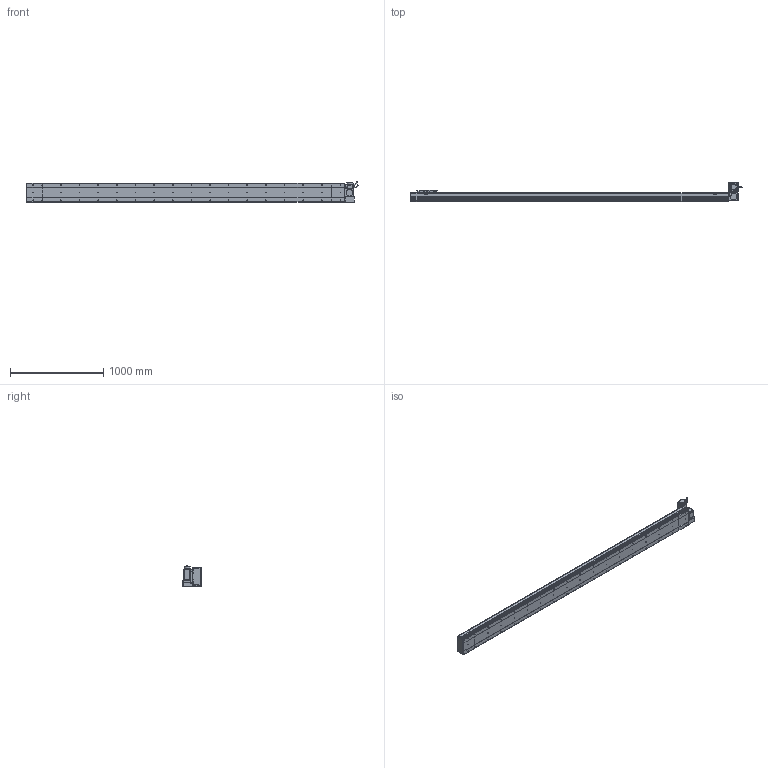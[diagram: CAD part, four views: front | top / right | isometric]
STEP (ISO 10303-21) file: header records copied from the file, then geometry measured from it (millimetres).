
FILE_DESCRIPTION (( 'STEP AP214' ), '1' );
FILE_NAME ('D20 CBH RT S3100.STEP', '2010-06-30T10:41:22', ( 'Conseil Régional Haute-Normandie' ), ( 'Conseil Régional Haute-Normandie' ), 'SwSTEP 2.0', 'SolidWorks 2010', '' );
FILE_SCHEMA (( 'AUTOMOTIVE_DESIGN' ));
Length unit declared in the file: millimetre
Products named in the file (31): vis M5 L47_Default; vis M5 L30_Default; Support moteur RT_Default; Moteur motionking 90BLDC125A-640; Corp Tail D20+100_Default; Tail D20+100_Default; Couvercle S3100_Default; Corp S3100_Default; Plaque de Bout Tail D20_Default; Couvercle_Default; vis M5 L15_Default; Plaque De Serrage D20_Default; Chariot D20_Default; Conecteur2_Default; Head RT_Default; Corp Tail D20 RT_Default; Plaque de Bout Head D20 RT_Default; Conecteur_Default; codeur 90BLDC125-640; ecrou_Default; Couvercle RT_Default; avant 90BLDC125A-640; Glissiere_Default; Corp D20 S3100_Default; Rondelle Cache D20 RT_Default; Support Chariot D20_Default; Plaque De Serrage D20 RT_Default; D20 CBH RT S3100; corps 90BLDC125A-640; Cache Support Moteur RT_Default
Assembly tree (68 placements, depth 4):
  D20 CBH RT S3100
    Head RT_Default
      Corp Tail D20 RT_Default
      vis M5 L15_Default  x14
      vis M5 L30_Default  x4
      Plaque de Bout Head D20 RT_Default
      vis M5 L47_Default  x4
      Support moteur RT_Default
      Rondelle Cache D20 RT_Default  x3
      Cache Support Moteur RT_Default
      Couvercle RT_Default
      Moteur motionking 90BLDC125A-640
        avant 90BLDC125A-640
        Conecteur_Default
        Conecteur2_Default
        corps 90BLDC125A-640
        codeur 90BLDC125-640
      ecrou_Default  x4
      Plaque De Serrage D20 RT_Default
    Chariot D20_Default
      Glissiere_Default
      vis M5 L15_Default  x8
      Support Chariot D20_Default
      Chariot D20_Default
    Tail D20+100_Default
      vis M5 L15_Default  x6
      Plaque De Serrage D20_Default
      Couvercle_Default
      Plaque de Bout Tail D20_Default
      Corp Tail D20+100_Default
    Corp D20 S3100_Default
      Corp S3100_Default
      Couvercle S3100_Default
Bounding box: 3564.45 x 206.5 x 229.7 mm (x, y, z)
Volume: 23873085.3 mm3; surface area: 4586256.1 mm2
Topology: 105 solids, 105 shells, 3874 faces, 9624 edges, 6250 vertices
Faces by surface type: plane 2149, bspline 806, cylinder 748, torus 95, cone 72, sphere 4
Entity records: 161030 total; most frequent: CARTESIAN_POINT 82580, ORIENTED_EDGE 15516, DIRECTION 11926, EDGE_CURVE 7758, VERTEX_POINT 5134, LINE 4990, VECTOR 4990, AXIS2_PLACEMENT_3D 3468
